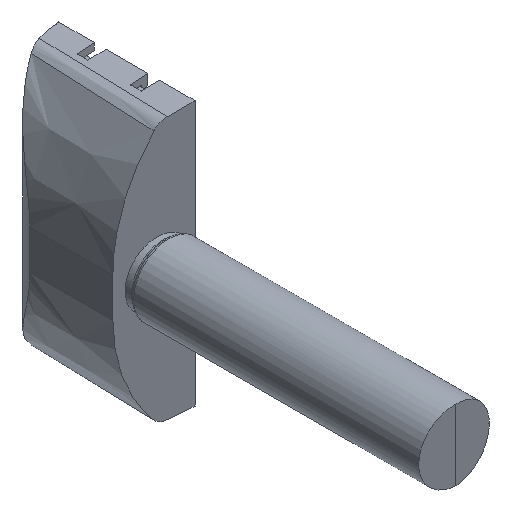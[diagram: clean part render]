
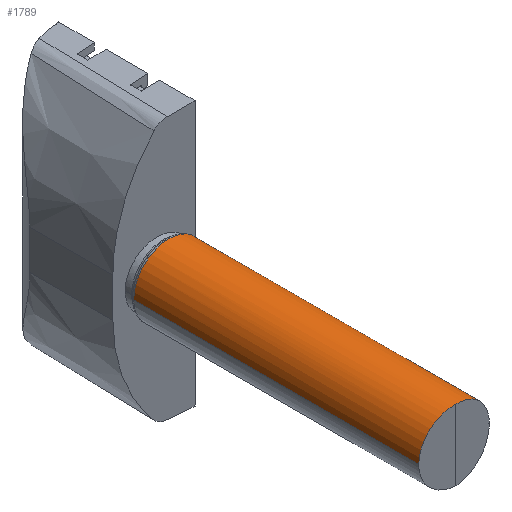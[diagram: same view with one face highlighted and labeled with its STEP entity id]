
A CAD part, isometric view. The second image highlights one B-rep face of the part: STEP entity #1789.
In plain terms, the highlighted cylindrical face has radius 5.95 mm (diameter 11.9 mm), a partial arc.
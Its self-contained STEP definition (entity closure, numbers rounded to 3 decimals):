
#108 = LINE ( 'NONE', #1910, #1655 ) ;
#161 = CIRCLE ( 'NONE', #2034, 5.95 ) ;
#169 = ORIENTED_EDGE ( 'NONE', *, *, #2420, .T. ) ;
#200 = ORIENTED_EDGE ( 'NONE', *, *, #1748, .F. ) ;
#220 = CARTESIAN_POINT ( 'NONE',  ( -5.95, -61.317, 3.485 ) ) ;
#321 = CARTESIAN_POINT ( 'NONE',  ( 0., 0., 0. ) ) ;
#376 = DIRECTION ( 'NONE',  ( 0., 0., 1. ) ) ;
#412 = VERTEX_POINT ( 'NONE', #2783 ) ;
#423 = CARTESIAN_POINT ( 'NONE',  ( 0., -61.188, -5.95 ) ) ;
#500 = VECTOR ( 'NONE', #2044, 1000. ) ;
#584 = FACE_OUTER_BOUND ( 'NONE', #1032, .T. ) ;
#598 = CARTESIAN_POINT ( 'NONE',  ( 0., -13.097, 0. ) ) ;
#604 =( BOUNDED_CURVE ( )  B_SPLINE_CURVE ( 3, ( #1793, #220, #2688, #2414 ),
 .UNSPECIFIED., .F., .F. ) 
 B_SPLINE_CURVE_WITH_KNOTS ( ( 4, 4 ),
 ( 4.712, 6.283 ),
 .UNSPECIFIED. ) 
 CURVE ( )  GEOMETRIC_REPRESENTATION_ITEM ( )  RATIONAL_B_SPLINE_CURVE ( ( 1., 0.805, 0.805, 1. ) ) 
 REPRESENTATION_ITEM ( '' )  );
#612 = DIRECTION ( 'NONE',  ( 0., 1., 0. ) ) ;
#625 = ORIENTED_EDGE ( 'NONE', *, *, #2754, .T. ) ;
#780 = CYLINDRICAL_SURFACE ( 'NONE', #1195, 5.95 ) ;
#818 = DIRECTION ( 'NONE',  ( 0., 0., 1. ) ) ;
#860 = CARTESIAN_POINT ( 'NONE',  ( 0., -61.188, 5.95 ) ) ;
#1032 = EDGE_LOOP ( 'NONE', ( #2634, #169, #625, #2806, #200 ) ) ;
#1088 = CARTESIAN_POINT ( 'NONE',  ( 0., -13.097, -5.95 ) ) ;
#1195 = AXIS2_PLACEMENT_3D ( 'NONE', #321, #612, #376 ) ;
#1255 = CARTESIAN_POINT ( 'NONE',  ( -5.95, -61.317, -3.485 ) ) ;
#1655 = VECTOR ( 'NONE', #2344, 1000. ) ;
#1748 = EDGE_CURVE ( 'NONE', #2063, #412, #161, .T. ) ;
#1789 = ADVANCED_FACE ( 'NONE', ( #584 ), #780, .T. ) ;
#1793 = CARTESIAN_POINT ( 'NONE',  ( -5.95, -61.5, 0. ) ) ;
#1895 = EDGE_CURVE ( 'NONE', #2838, #412, #2705, .T. ) ;
#1910 = CARTESIAN_POINT ( 'NONE',  ( 0., 0., -5.95 ) ) ;
#1912 = DIRECTION ( 'NONE',  ( 0., 1., 0. ) ) ;
#2022 = EDGE_CURVE ( 'NONE', #2357, #2063, #108, .T. ) ;
#2034 = AXIS2_PLACEMENT_3D ( 'NONE', #598, #1912, #818 ) ;
#2044 = DIRECTION ( 'NONE',  ( 0., 1., 0. ) ) ;
#2063 = VERTEX_POINT ( 'NONE', #1088 ) ;
#2122 = CARTESIAN_POINT ( 'NONE',  ( -5.95, -61.5, 0. ) ) ;
#2189 =( BOUNDED_CURVE ( )  B_SPLINE_CURVE ( 3, ( #2622, #2409, #1255, #2122 ),
 .UNSPECIFIED., .F., .F. ) 
 B_SPLINE_CURVE_WITH_KNOTS ( ( 4, 4 ),
 ( 0., 1.571 ),
 .UNSPECIFIED. ) 
 CURVE ( )  GEOMETRIC_REPRESENTATION_ITEM ( )  RATIONAL_B_SPLINE_CURVE ( ( 1., 0.805, 0.805, 1. ) ) 
 REPRESENTATION_ITEM ( '' )  );
#2301 = CARTESIAN_POINT ( 'NONE',  ( -5.95, -61.5, 0. ) ) ;
#2303 = CARTESIAN_POINT ( 'NONE',  ( 0., 0., 5.95 ) ) ;
#2344 = DIRECTION ( 'NONE',  ( 0., 1., 0. ) ) ;
#2357 = VERTEX_POINT ( 'NONE', #423 ) ;
#2409 = CARTESIAN_POINT ( 'NONE',  ( -3.485, -61.188, -5.95 ) ) ;
#2414 = CARTESIAN_POINT ( 'NONE',  ( 0., -61.188, 5.95 ) ) ;
#2420 = EDGE_CURVE ( 'NONE', #2357, #2856, #2189, .T. ) ;
#2622 = CARTESIAN_POINT ( 'NONE',  ( 0., -61.188, -5.95 ) ) ;
#2634 = ORIENTED_EDGE ( 'NONE', *, *, #2022, .F. ) ;
#2688 = CARTESIAN_POINT ( 'NONE',  ( -3.485, -61.188, 5.95 ) ) ;
#2705 = LINE ( 'NONE', #2303, #500 ) ;
#2754 = EDGE_CURVE ( 'NONE', #2856, #2838, #604, .T. ) ;
#2783 = CARTESIAN_POINT ( 'NONE',  ( 0., -13.097, 5.95 ) ) ;
#2806 = ORIENTED_EDGE ( 'NONE', *, *, #1895, .T. ) ;
#2838 = VERTEX_POINT ( 'NONE', #860 ) ;
#2856 = VERTEX_POINT ( 'NONE', #2301 ) ;
